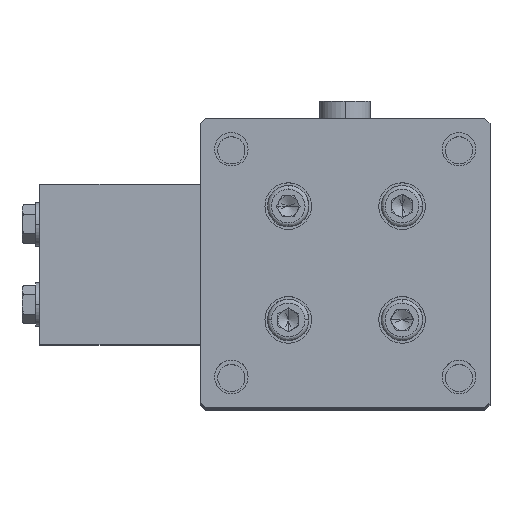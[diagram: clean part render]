
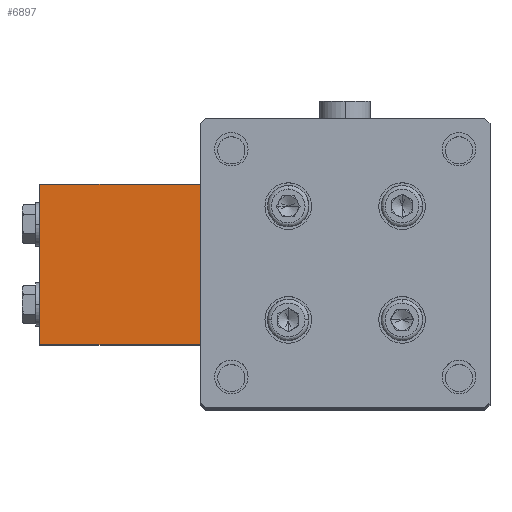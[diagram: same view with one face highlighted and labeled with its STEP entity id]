
A CAD part, top view. The second image highlights one B-rep face of the part: STEP entity #6897.
In plain terms, the highlighted planar face has unit normal (0, 0, 1).
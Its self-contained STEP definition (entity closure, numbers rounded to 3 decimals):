
#596 = ORIENTED_EDGE ( 'NONE', *, *, #4386, .T. ) ;
#792 = VERTEX_POINT ( 'NONE', #11315 ) ;
#1012 = ORIENTED_EDGE ( 'NONE', *, *, #3262, .T. ) ;
#1186 = VECTOR ( 'NONE', #7377, 1000. ) ;
#1653 = VECTOR ( 'NONE', #4276, 1000. ) ;
#1913 = DIRECTION ( 'NONE',  ( 1., 0., 0. ) ) ;
#2244 = LINE ( 'NONE', #5798, #12229 ) ;
#2803 = EDGE_CURVE ( 'NONE', #3385, #11766, #2244, .T. ) ;
#2895 = CARTESIAN_POINT ( 'NONE',  ( -56., 31., -258.9 ) ) ;
#3096 = AXIS2_PLACEMENT_3D ( 'NONE', #8312, #9829, #3321 ) ;
#3262 = EDGE_CURVE ( 'NONE', #792, #3385, #3402, .T. ) ;
#3321 = DIRECTION ( 'NONE',  ( -1., 0., 0. ) ) ;
#3385 = VERTEX_POINT ( 'NONE', #11719 ) ;
#3402 = LINE ( 'NONE', #7649, #8252 ) ;
#3482 = CARTESIAN_POINT ( 'NONE',  ( -118., 0., -258.9 ) ) ;
#3550 = ORIENTED_EDGE ( 'NONE', *, *, #2803, .T. ) ;
#4033 = CARTESIAN_POINT ( 'NONE',  ( -118., 31., -258.9 ) ) ;
#4217 = EDGE_CURVE ( 'NONE', #11766, #11865, #8393, .T. ) ;
#4276 = DIRECTION ( 'NONE',  ( -1., 0., 0. ) ) ;
#4293 = PLANE ( 'NONE',  #3096 ) ;
#4386 = EDGE_CURVE ( 'NONE', #11865, #792, #11438, .T. ) ;
#5571 = EDGE_LOOP ( 'NONE', ( #7693, #596, #1012, #3550 ) ) ;
#5798 = CARTESIAN_POINT ( 'NONE',  ( -56., 0., -258.9 ) ) ;
#6897 = ADVANCED_FACE ( 'NONE', ( #9769 ), #4293, .F. ) ;
#7377 = DIRECTION ( 'NONE',  ( 0., -1., 0. ) ) ;
#7649 = CARTESIAN_POINT ( 'NONE',  ( -87., -31., -258.9 ) ) ;
#7693 = ORIENTED_EDGE ( 'NONE', *, *, #4217, .T. ) ;
#7735 = DIRECTION ( 'NONE',  ( 0., 1., 0. ) ) ;
#8252 = VECTOR ( 'NONE', #1913, 1000. ) ;
#8312 = CARTESIAN_POINT ( 'NONE',  ( -56., -31., -258.9 ) ) ;
#8393 = LINE ( 'NONE', #10058, #1653 ) ;
#9769 = FACE_OUTER_BOUND ( 'NONE', #5571, .T. ) ;
#9829 = DIRECTION ( 'NONE',  ( 0., 0., -1. ) ) ;
#10058 = CARTESIAN_POINT ( 'NONE',  ( -87., 31., -258.9 ) ) ;
#11315 = CARTESIAN_POINT ( 'NONE',  ( -118., -31., -258.9 ) ) ;
#11438 = LINE ( 'NONE', #3482, #1186 ) ;
#11719 = CARTESIAN_POINT ( 'NONE',  ( -56., -31., -258.9 ) ) ;
#11766 = VERTEX_POINT ( 'NONE', #2895 ) ;
#11865 = VERTEX_POINT ( 'NONE', #4033 ) ;
#12229 = VECTOR ( 'NONE', #7735, 1000. ) ;
